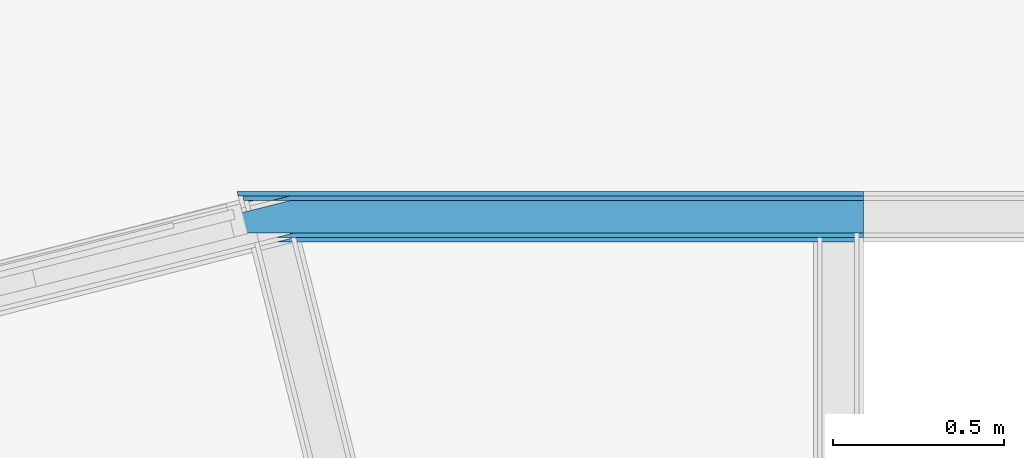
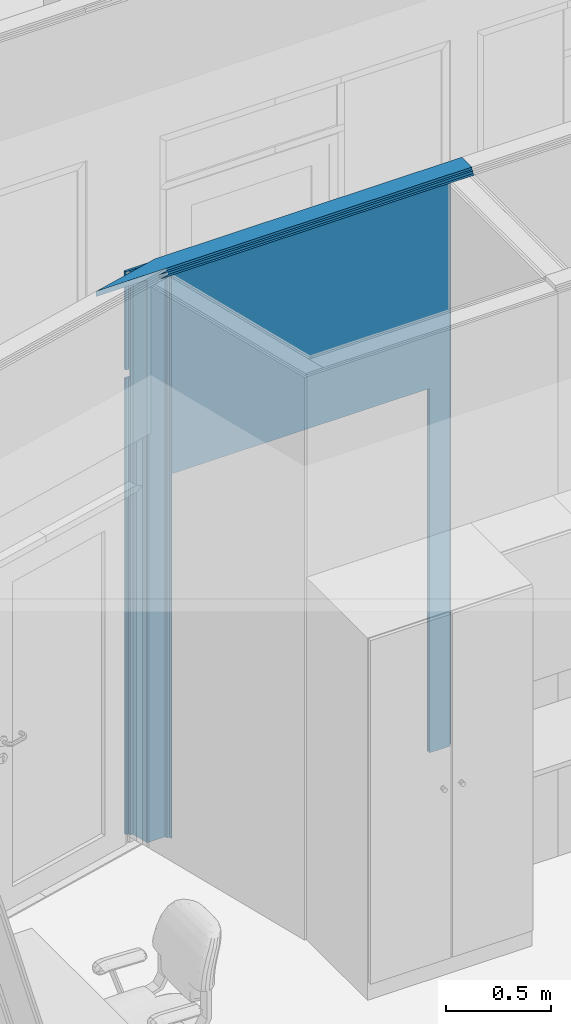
# One storey, part 80 of 153: 5 building element parts, 1 opening, 1 element without a shape of its own.
"""IFC2X3 building model written with IfcOpenShell, lengths in millimetres."""

import ifcopenshell
import ifcopenshell.guid

model = None  # the IFC model being written
_history = None  # IfcOwnerHistory: only IFC2X3 demands one
_inside = {}  # id of a spatial element -> (the spatial element, [elements in it])
_under = {}  # id of a project, library or spatial element -> (it, [spatial elements below it])
_declared = {}  # id of a project -> (the project, [libraries it declares])
_typed = {}  # id of a type object -> (the type object, [elements of that type])
_made_of = {}  # id of a material, layer set ... -> (it, [elements and type objects made of it])


def new_model(schema):
    """Start an empty IFC model of exactly this schema.

    Asked for "IFC4X3", IfcOpenShell would pick the latest addendum, in which some entities
    have other attributes; the version numbers below select the first issue.
    IFC2X3 requires an IfcOwnerHistory on every rooted entity: one is made here for all.
    """
    global model, _history
    if schema == "IFC4X3":
        model = ifcopenshell.file(schema_version=(4, 3, 0, 0))
    else:
        model = ifcopenshell.file(schema=schema)
    _inside.clear()
    _under.clear()
    _declared.clear()
    _typed.clear()
    _made_of.clear()
    _history = None
    if model.schema == "IFC2X3":
        org = make("IfcOrganization", Name="unknown")
        user = make(
            "IfcPersonAndOrganization",
            ThePerson=make("IfcPerson", FamilyName="unknown"),
            TheOrganization=org,
        )
        app = make(
            "IfcApplication",
            ApplicationDeveloper=org,
            Version="unknown",
            ApplicationFullName="unknown",
            ApplicationIdentifier="unknown",
        )
        _history = make(
            "IfcOwnerHistory",
            OwningUser=user,
            OwningApplication=app,
            ChangeAction="ADDED",
            CreationDate=0,
        )
    return model


def make(cls, **values):
    """One entity of the class cls with the attributes given. An attribute that is None is left unset."""
    return model.create_entity(
        cls, **{name: value for name, value in values.items() if value is not None}
    )


def entity(cls, *values):
    """Any entity or typed value of the class cls, its attributes in the order of the schema. None: left unset."""
    e = model.create_entity(cls)
    for i, value in enumerate(values):
        if value is not None:
            e[i] = value
    return e


def rooted(cls, **values):
    """An entity with a GlobalId (a new one), such as an element, a storey or a relation."""
    return make(cls, GlobalId=ifcopenshell.guid.new(), OwnerHistory=_history, **values)


def si_unit(unit_type, name, prefix=None):
    """IfcSIUnit, for example si_unit("LENGTHUNIT", "METRE", prefix="MILLI")."""
    return make("IfcSIUnit", UnitType=unit_type, Prefix=prefix, Name=name)


def converted_unit(unit_type, name, factor, base, dimensions=None, offset=None):
    """IfcConversionBasedUnit, such as the inch: factor (a typed value) times the base unit."""
    return make(
        "IfcConversionBasedUnit"
        if offset is None
        else "IfcConversionBasedUnitWithOffset",
        ConversionOffset=offset,
        Dimensions=None
        if dimensions is None
        else entity("IfcDimensionalExponents", *dimensions),
        UnitType=unit_type,
        Name=name,
        ConversionFactor=make(
            "IfcMeasureWithUnit", ValueComponent=factor, UnitComponent=base
        ),
    )


def derived_unit(unit_type, elements):
    """IfcDerivedUnit: a product of units, each with its exponent."""
    return make(
        "IfcDerivedUnit",
        Elements=[
            make("IfcDerivedUnitElement", Unit=unit, Exponent=power)
            for unit, power in elements
        ],
        UnitType=unit_type,
    )


def money_unit(currency):
    """IfcMonetaryUnit."""
    return make("IfcMonetaryUnit", Currency=currency)


def assignment(units):
    """IfcUnitAssignment: the units of a project."""
    return None if units is None else make("IfcUnitAssignment", Units=units)


def point(xyz):
    """IfcCartesianPoint."""
    return None if xyz is None else make("IfcCartesianPoint", Coordinates=xyz)


def direction(xyz):
    """IfcDirection."""
    return None if xyz is None else make("IfcDirection", DirectionRatios=xyz)


def frame(location, z_axis=None, x_axis=None):
    """IfcAxis2Placement3D, a coordinate frame: its origin and axes. An axis left out is left unset."""
    return make(
        "IfcAxis2Placement3D",
        Location=point(location),
        Axis=direction(z_axis),
        RefDirection=direction(x_axis),
    )


def origin_with_axes():
    """The frame at (0, 0, 0) with the z axis (0, 0, 1) and the x axis (1, 0, 0) written out."""
    return frame((0.0, 0.0, 0.0), z_axis=(0.0, 0.0, 1.0), x_axis=(1.0, 0.0, 0.0))


def place(relative_to, where):
    """IfcLocalPlacement: puts the frame where relative to a parent placement (None: the world)."""
    return make(
        "IfcLocalPlacement", PlacementRelTo=relative_to, RelativePlacement=where
    )


def context(
    kind, dimensions, precision=None, world=None, true_north=None, identifier=None
):
    """IfcGeometricRepresentationContext, for example the 3D "Model" context."""
    return make(
        "IfcGeometricRepresentationContext",
        ContextIdentifier=identifier,
        ContextType=kind,
        CoordinateSpaceDimension=dimensions,
        Precision=precision,
        WorldCoordinateSystem=world,
        TrueNorth=true_north,
    )


def subcontext(parent, identifier, kind, view, scale=None):
    """IfcGeometricRepresentationSubContext, for example "Body" below "Model"."""
    return make(
        "IfcGeometricRepresentationSubContext",
        ContextIdentifier=identifier,
        ContextType=kind,
        ParentContext=parent,
        TargetScale=scale,
        TargetView=view,
    )


def project(units=None, contexts=None):
    """IfcProject with its units and contexts."""
    return rooted(
        "IfcProject",
        Name="project",
        RepresentationContexts=contexts,
        UnitsInContext=assignment(units),
    )


def spatial(cls, under=None, at=None, **own):
    """A site, building, storey or space (cls), placed at a placement, below another one or the project."""
    s = rooted(cls, ObjectPlacement=at, **own)
    if under is not None:
        _under.setdefault(under.id(), (under, []))[1].append(s)
    return s


def faces_of(points, faces, orient=None, outer=None):
    """IfcFace entities. A face is a list of loops; a loop is a list of indices into points, from 0.

    orient and outer hold one flag for each loop. By default every Orientation is true, the
    first loop of a face is its IfcFaceOuterBound and the others are IfcFaceBound.
    """
    made = []
    for i, loops in enumerate(faces):
        bounds = []
        for j, loop in enumerate(loops):
            is_outer = j == 0 if outer is None else outer[i][j]
            bounds.append(
                make(
                    "IfcFaceOuterBound" if is_outer else "IfcFaceBound",
                    Bound=make("IfcPolyLoop", Polygon=[points[k] for k in loop]),
                    Orientation=True if orient is None else orient[i][j],
                )
            )
        made.append(make("IfcFace", Bounds=bounds))
    return made


def faceted_brep(points, faces, orient=None, outer=None, voids=None):
    """IfcFacetedBrep: a solid bounded by flat faces; with voids (closed shells), ...WithVoids."""
    shared = [point(p) for p in points]
    hull = make("IfcClosedShell", CfsFaces=faces_of(shared, faces, orient, outer))
    if voids is None:
        return make("IfcFacetedBrep", Outer=hull)
    return make(
        "IfcFacetedBrepWithVoids",
        Outer=hull,
        Voids=[
            make(cls, CfsFaces=faces_of(shared, fs, o, b)) for cls, fs, o, b in voids
        ],
    )


def shape(context_of_items, identifier, shape_type, items):
    """IfcShapeRepresentation: the items that make up one representation, for example the "Body"."""
    return make(
        "IfcShapeRepresentation",
        ContextOfItems=context_of_items,
        RepresentationIdentifier=identifier,
        RepresentationType=shape_type,
        Items=items,
    )


def material(Name=None, Category=None):
    """IfcMaterial."""
    return make("IfcMaterial", Name=Name, Category=Category)


def made_of(thing, what):
    """Note that an element or type object is made of a material, layer set ...; save() writes the relation."""
    if what is not None:
        _made_of.setdefault(what.id(), (what, []))[1].append(thing)
    return thing


def type_object(cls, material=None, **own):
    """A type object (cls), such as IfcWallType, which elements share."""
    return made_of(rooted(cls, **own), material)


def element(
    cls,
    number,
    at=None,
    inside=None,
    cuts=None,
    type_object=None,
    material=None,
    context=None,
    identifier="Body",
    shape_type=None,
    held_by="IfcProductDefinitionShape",
    body=None,
    shapes=None,
    **own,
):
    """One element of the class cls, such as IfcWall. Its Tag is "e" and its number.

    at: its placement. inside: the storey or other place that contains it. cuts: it is an
    opening in that element (IfcRelVoidsElement). A single representation is given by context,
    identifier, shape_type and body (its items); several are given by shapes. held_by: the class
    of the entity that holds the representations. save() writes the other relations.
    """
    e = rooted(cls, Tag="e%d" % number, ObjectPlacement=at, **own)
    if body is not None:
        shapes = [shape(context, identifier, shape_type, body)]
    if shapes is not None:
        e.Representation = make(held_by, Representations=shapes)
    if inside is not None:
        _inside.setdefault(inside.id(), (inside, []))[1].append(e)
    if cuts is not None:
        rooted(
            "IfcRelVoidsElement", RelatingBuildingElement=cuts, RelatedOpeningElement=e
        )
    if type_object is not None:
        _typed.setdefault(type_object.id(), (type_object, []))[1].append(e)
    return made_of(e, material)


def aggregate(whole, parts):
    """IfcRelAggregates: a whole, such as a stair, and the parts it consists of."""
    return rooted("IfcRelAggregates", RelatingObject=whole, RelatedObjects=parts)


def save(model, path):
    """Write the relations noted so far, then the file.

    IfcRelAggregates (storeys below a building ...), IfcRelContainedInSpatialStructure (elements
    in a storey), IfcRelDefinesByType, IfcRelAssociatesMaterial and IfcRelDeclares: one each for
    every whole, place, type object, material and project.
    """
    for whole, parts in _under.values():
        aggregate(whole, parts)
    for where, things in _inside.values():
        rooted(
            "IfcRelContainedInSpatialStructure",
            RelatedElements=things,
            RelatingStructure=where,
        )
    for kind, things in _typed.values():
        rooted("IfcRelDefinesByType", RelatedObjects=things, RelatingType=kind)
    for what, things in _made_of.values():
        rooted("IfcRelAssociatesMaterial", RelatedObjects=things, RelatingMaterial=what)
    for by, libraries in _declared.values():
        rooted("IfcRelDeclares", RelatingContext=by, RelatedDefinitions=libraries)
    model.write(path)


model = new_model("IFC2X3")

# Units and contexts
model_context = context("Model", 3, precision=0.01, world=origin_with_axes(), true_north=direction((0.0, 1.0)))
body_context = subcontext(model_context, "Body", "Model", "MODEL_VIEW")
ifc_project = project(units=[si_unit("LENGTHUNIT", "METRE", prefix="MILLI"), si_unit("AREAUNIT", "SQUARE_METRE"), si_unit("VOLUMEUNIT", "CUBIC_METRE"), converted_unit("PLANEANGLEUNIT", "DEGREE", entity("IfcPlaneAngleMeasure", 0.0174532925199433), si_unit("PLANEANGLEUNIT", "RADIAN"), dimensions=[0, 0, 0, 0, 0, 0, 0]), money_unit("EUR"), converted_unit("TIMEUNIT", "Year", entity("IfcTimeMeasure", 31557600.0), si_unit("TIMEUNIT", "SECOND"), dimensions=[0, 0, 1, 0, 0, 0, 0]), si_unit("MASSUNIT", "GRAM", prefix="KILO"), si_unit("THERMODYNAMICTEMPERATUREUNIT", "DEGREE_CELSIUS"), si_unit("LUMINOUSINTENSITYUNIT", "LUMEN"), si_unit("ENERGYUNIT", "JOULE", prefix="MEGA"), derived_unit("THERMALCONDUCTANCEUNIT", [(si_unit("POWERUNIT", "WATT"), 1), (si_unit("LENGTHUNIT", "METRE"), -1), (si_unit("THERMODYNAMICTEMPERATUREUNIT", "KELVIN"), -1)]), derived_unit("SPECIFICHEATCAPACITYUNIT", [(si_unit("ENERGYUNIT", "JOULE"), 1), (si_unit("MASSUNIT", "GRAM", prefix="KILO"), -1), (si_unit("THERMODYNAMICTEMPERATUREUNIT", "KELVIN"), -1)]), derived_unit("MASSDENSITYUNIT", [(si_unit("MASSUNIT", "GRAM", prefix="KILO"), 1), (si_unit("VOLUMEUNIT", "CUBIC_METRE"), -1)])], contexts=[model_context])

# Site, building, storey
site_placement = place(None, frame((0.0, 0.0, 8650.0), z_axis=(0.0, 0.0, 1.0), x_axis=(1.0, 0.0, 0.0)))
site = spatial("IfcSite", under=ifc_project, at=site_placement, Name="43301:001:0844", CompositionType="ELEMENT")
building_placement = place(site_placement, origin_with_axes())
building = spatial("IfcBuilding", under=site, at=building_placement, Name="Kuressaare Ametikooli tuulikute mehaanikute õppekorpus", CompositionType="ELEMENT")
storey_placement = place(building_placement, frame((0.0, 0.0, 4100.0), z_axis=(0.0, 0.0, 1.0), x_axis=(1.0, 0.0, 0.0)))
storey = spatial("IfcBuildingStorey", under=building, at=storey_placement, Name="2.korrus", CompositionType="ELEMENT", Elevation=4100.0)

# Wall, opening, building element parts
wall_type = type_object("IfcWallType", Name="SS-2.2 147", PredefinedType="NOTDEFINED")
wall_placement = place(storey_placement, frame((124960.4796407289, 21634.06892395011, 0.0), z_axis=(0.0, 0.0, 1.0), x_axis=(1.0, 0.0, 0.0)))
wall = element("IfcWall", 1, at=wall_placement, inside=storey, type_object=wall_type, Name="Sisesein")
opening_placement = place(wall_placement, frame((731.8446297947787, 0.0, 0.0), z_axis=(0.0, 0.0, 1.0), x_axis=(1.0, 0.0, 0.0)))
element("IfcOpeningElement", 2, at=opening_placement, cuts=wall, Name="PU10+4", context=body_context, shape_type="Brep", body=[
    faceted_brep([(-704.9999999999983, -147.9999999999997, 2110.0), (-704.9999999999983, -147.9999999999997, 0.0), (704.9999999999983, -147.9999999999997, 0.0), (704.9999999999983, -147.9999999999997, 2110.0), (-704.9999999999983, 1.000000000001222, 2110.0), (-704.9999999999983, 1.000000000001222, 0.0), (704.9999999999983, 1.000000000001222, 0.0), (704.9999999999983, 1.000000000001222, 2110.0)], [[[0, 1, 2, 3]], [[4, 5, 1, 0]], [[5, 6, 2, 1]], [[6, 7, 3, 2]], [[7, 4, 0, 3]], [[6, 5, 4, 7]]]),
])
ifc_material_1 = material(Name="Kipsplaat")
building_element_part_1_placement = place(wall_placement, origin_with_axes())
building_element_part_1 = element("IfcBuildingElementPart", 3, at=building_element_part_1_placement, material=ifc_material_1, Name="Kipsplaat", context=body_context, shape_type="Brep", body=[
    faceted_brep([(1436.844629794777, -12.99999999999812, 2110.0), (1436.844629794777, 0.0, 2110.0), (1436.844629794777, 0.0, 3259.999999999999), (1436.844629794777, -12.99999999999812, 3259.999999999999), (26.84462979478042, 0.0, 2110.0), (26.84462979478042, -12.99999999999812, 2110.0), (26.84462979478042, 0.0, 0.0), (-151.5471106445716, 0.0, 0.0), (-151.5471106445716, 0.0, 2640.000017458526), (-49.04929149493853, 0.0, 2640.000017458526), (-49.04929149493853, 0.0, 2690.000017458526), (-151.5471106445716, 0.0, 2690.000017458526), (-151.5471106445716, 0.0, 3259.999999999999), (0.0, 0.0, 3259.999999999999), (0.0, 0.0, 3260.712739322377), (1683.844629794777, 0.0, 3260.712739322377), (1683.844629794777, 0.0, 3259.999999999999), (1683.844629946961, -12.99999999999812, 3259.999999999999), (1683.844629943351, -12.99999999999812, 3260.712739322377), (-51.86644595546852, -12.99999999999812, 3260.712739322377), (-51.86644595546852, -12.99999999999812, 3259.999999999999), (-148.2887420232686, -12.99999999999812, 3259.999999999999), (-148.2887420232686, -12.99999999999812, 2690.000017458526), (-100.5406545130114, -12.99999999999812, 2690.000017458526), (-100.5406545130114, -12.99999999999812, 2640.000017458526), (-148.2887420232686, -12.99999999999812, 2640.000017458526), (-148.2887420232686, -13.00000000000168, 0.0), (26.84462979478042, -13.00000000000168, 0.0)], [[[0, 1, 2, 3]], [[4, 1, 0, 5]], [[4, 6, 7, 8, 9, 10, 11, 12, 13, 14, 15, 16, 2, 1]], [[2, 16, 17, 3]], [[5, 0, 3, 17, 18, 19, 20, 21, 22, 23, 24, 25, 26, 27]], [[6, 4, 5, 27]], [[6, 27, 26, 7]], [[8, 7, 26, 25]], [[8, 25, 24, 9]], [[9, 24, 23, 10]], [[10, 23, 22, 11]], [[22, 21, 12, 11]], [[13, 12, 21, 20]], [[14, 13, 20, 19]], [[15, 14, 19, 18]], [[18, 17, 16, 15]]]),
])
ifc_material_2 = material(Name="Soojustus - Mineraalvill pehme")
building_element_part_2_placement = place(wall_placement, origin_with_axes())
building_element_part_2 = element("IfcBuildingElementPart", 4, at=building_element_part_2_placement, material=ifc_material_2, Name="Soojustus - Mineraalvill pehme", context=body_context, shape_type="Brep", body=[
    faceted_brep([(1436.844629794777, -120.9999999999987, 3259.999999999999), (1436.844629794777, -120.9999999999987, 2110.0), (1436.844629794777, -25.9999999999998, 2110.0), (1436.844629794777, -25.9999999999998, 3259.999999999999), (26.84462979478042, -121.0000000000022, 0.0), (26.84462979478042, -120.9999999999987, 2110.0), (1657.844629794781, -120.9999999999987, 3259.999999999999), (1683.844629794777, -120.9999999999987, 3259.999999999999), (1683.844629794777, -120.9999999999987, 3289.999998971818), (-375.8152870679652, -120.9999999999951, 3289.999999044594), (-375.8152870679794, -120.9999999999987, 3259.999999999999), (-121.2192180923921, -120.9999999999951, 3259.999999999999), (-94.41496723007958, -120.9999999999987, 3259.999999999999), (-94.41496723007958, -121.0000000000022, 0.0), (26.84462979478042, -25.9999999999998, 2110.0), (26.84462979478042, -25.9999999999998, 0.0), (-118.2261225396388, -25.9999999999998, 0.0), (-118.2261225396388, -25.9999999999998, 3259.999999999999), (-103.7328919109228, -25.9999999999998, 3259.999999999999), (3.208741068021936, -25.9999999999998, 3259.999999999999), (3.208741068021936, -25.9999999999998, 3289.999998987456), (1683.844629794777, -25.9999999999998, 3289.999998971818), (1683.844629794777, -25.9999999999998, 3259.999999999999), (1657.844629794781, -25.9999999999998, 3259.999999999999), (-136.2681184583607, -60.95900172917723, 3259.999999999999), (-111.0482380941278, -54.63779658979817, 3259.999999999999), (-117.3694432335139, -29.41791622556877, 3259.999999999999)], [[[0, 1, 2, 3]], [[4, 5, 1, 0, 6, 7, 8, 9, 10, 11, 12, 13]], [[5, 14, 2, 1]], [[2, 14, 15, 16, 17, 18, 19, 20, 21, 22, 23, 3]], [[0, 3, 23, 6]], [[4, 15, 14, 5]], [[7, 6, 23, 22]], [[8, 7, 22, 21]], [[21, 20, 9, 8]], [[24, 10, 9, 20, 19, 25]], [[11, 10, 24]], [[24, 25, 12, 11]], [[12, 25, 26, 17, 16, 13]], [[16, 15, 4, 13]], [[26, 18, 17]], [[18, 26, 25, 19]]]),
])
building_element_part_3_placement = place(wall_placement, origin_with_axes())
building_element_part_3 = element("IfcBuildingElementPart", 5, at=building_element_part_3_placement, material=ifc_material_1, Name="Kipsplaat", context=body_context, shape_type="Brep", body=[
    faceted_brep([(1436.844629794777, -25.9999999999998, 2110.0), (1436.844629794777, -12.99999999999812, 2110.0), (1436.844629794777, -12.99999999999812, 3259.999999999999), (1436.844629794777, -25.9999999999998, 3259.999999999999), (26.84462979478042, -13.00000000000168, 2110.0), (26.84462979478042, -25.9999999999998, 2110.0), (26.84462979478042, -13.00000000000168, 0.0), (-134.8866165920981, -13.00000000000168, 0.0), (-134.8866165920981, -13.00000000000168, 2640.000017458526), (-100.5406545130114, -12.99999999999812, 2640.000017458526), (-100.5406545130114, -12.99999999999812, 2690.000017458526), (-134.8866165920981, -13.00000000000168, 2690.000017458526), (-134.8866165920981, -13.00000000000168, 3259.999999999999), (-51.86644595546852, -13.00000000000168, 3259.999999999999), (1.60437053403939, -12.99999999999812, 3259.999999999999), (1.60437053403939, -12.99999999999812, 3275.712739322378), (1683.844629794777, -12.99999999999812, 3275.712739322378), (1683.844629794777, -13.00000000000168, 3259.999999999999), (1670.844629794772, -12.99999999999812, 3259.999999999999), (1670.844629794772, -25.9999999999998, 3259.999999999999), (1683.844629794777, -25.9999999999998, 3259.999999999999), (1683.844629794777, -25.9999999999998, 3275.712739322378), (-50.26207542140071, -25.9999999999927, 3275.712739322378), (-50.26207542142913, -25.9999999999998, 3259.999999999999), (-103.7328919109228, -25.9999999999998, 3259.999999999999), (-131.6282479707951, -25.9999999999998, 3259.999999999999), (-131.6282479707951, -25.9999999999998, 0.0), (26.84462979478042, -25.9999999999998, 0.0), (-132.842555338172, -21.15524558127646, 2690.000017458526), (-132.842555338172, -21.15524558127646, 2640.000017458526)], [[[0, 1, 2, 3]], [[4, 1, 0, 5]], [[4, 6, 7, 8, 9, 10, 11, 12, 13, 14, 15, 16, 17, 18, 2, 1]], [[2, 18, 19, 3]], [[5, 0, 3, 19, 20, 21, 22, 23, 24, 25, 26, 27]], [[6, 4, 5, 27]], [[6, 27, 26, 7]], [[12, 11, 28, 29, 8, 7, 26, 25]], [[9, 8, 29]], [[9, 29, 28, 10]], [[11, 10, 28]], [[12, 25, 24, 13]], [[14, 13, 24, 23]], [[15, 14, 23, 22]], [[16, 15, 22, 21]], [[21, 20, 17, 16]], [[19, 18, 17, 20]]]),
])
building_element_part_4_placement = place(wall_placement, origin_with_axes())
building_element_part_4 = element("IfcBuildingElementPart", 6, at=building_element_part_4_placement, material=ifc_material_1, Name="Kipsplaat", context=body_context, shape_type="Brep", body=[
    faceted_brep([(26.84462979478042, -134.0000000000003, 2110.0), (26.84462979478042, -134.0000000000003, 0.0), (20.18413574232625, -134.0000000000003, 0.0), (20.18413574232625, -134.0000000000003, 3259.999999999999), (16.53735781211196, -134.0000000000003, 3259.999999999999), (16.53735781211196, -134.0000000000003, 3260.712739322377), (1683.844629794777, -134.0000000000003, 3260.712739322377), (1683.844629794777, -134.0000000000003, 3259.999999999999), (1549.844629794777, -134.0000000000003, 3259.999999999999), (1549.844629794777, -134.0000000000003, 0.0), (1436.844629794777, -134.0000000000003, 0.0), (1436.844629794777, -134.0000000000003, 2110.0), (26.84462979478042, -146.9999999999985, 2110.0), (26.84462979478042, -147.0000000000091, 0.0), (23.44250436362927, -147.0000000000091, 0.0), (23.44250436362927, -146.9999999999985, 3259.999999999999), (-35.32908814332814, -146.9999999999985, 3259.999999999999), (-35.32908814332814, -146.9999999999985, 3260.712739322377), (1683.844629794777, -146.9999999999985, 3260.712739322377), (1683.844629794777, -146.9999999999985, 3259.999999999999), (1549.844629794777, -146.9999999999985, 3259.999999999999), (1549.844629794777, -146.9999999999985, 0.0), (1436.844629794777, -146.9999999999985, 0.0), (1436.844629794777, -146.9999999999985, 2110.0)], [[[0, 1, 2, 3, 4, 5, 6, 7, 8, 9, 10, 11]], [[1, 0, 12, 13]], [[1, 13, 14, 2]], [[14, 15, 3, 2]], [[4, 3, 15, 16]], [[5, 4, 16, 17]], [[6, 5, 17, 18]], [[18, 19, 7, 6]], [[19, 20, 8, 7]], [[9, 8, 20, 21]], [[22, 10, 9, 21]], [[11, 10, 22, 23]], [[0, 11, 23, 12]], [[23, 22, 21, 20, 19, 18, 17, 16, 15, 14, 13, 12]]]),
])
building_element_part_5_placement = place(wall_placement, origin_with_axes())
building_element_part_5 = element("IfcBuildingElementPart", 7, at=building_element_part_5_placement, material=ifc_material_1, Name="Kipsplaat", context=body_context, shape_type="Brep", body=[
    faceted_brep([(26.84462979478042, -120.9999999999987, 2110.0), (26.84462979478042, -120.9999999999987, 0.0), (3.523641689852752, -120.9999999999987, 0.0), (3.523641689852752, -120.9999999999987, 3259.999999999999), (14.93298727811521, -120.9999999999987, 3259.999999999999), (14.93298727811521, -120.9999999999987, 3275.712739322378), (1683.844629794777, -120.9999999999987, 3275.712739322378), (1683.844629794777, -120.9999999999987, 3259.999999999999), (1562.844629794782, -120.9999999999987, 3259.999999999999), (1562.844629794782, -120.9999999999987, 0.0), (1436.844629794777, -120.9999999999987, 0.0), (1436.844629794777, -120.9999999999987, 2110.0), (26.84462979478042, -134.0000000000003, 2110.0), (26.84462979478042, -134.0000000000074, 0.0), (6.782010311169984, -134.0000000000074, 0.0), (6.782010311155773, -134.0000000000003, 3259.999999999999), (4.198035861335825, -123.6906483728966, 3259.999999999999), (-36.93345867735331, -134.0000000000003, 3259.999999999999), (-36.9334586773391, -133.9999999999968, 3275.712739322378), (1683.844629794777, -134.0000000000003, 3275.712739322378), (1683.844629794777, -134.0000000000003, 3259.999999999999), (1562.844629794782, -134.0000000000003, 3259.999999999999), (1562.844629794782, -134.0000000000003, 0.0), (1436.844629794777, -134.0000000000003, 0.0), (1436.844629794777, -134.0000000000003, 2110.0)], [[[0, 1, 2, 3, 4, 5, 6, 7, 8, 9, 10, 11]], [[1, 0, 12, 13]], [[1, 13, 14, 2]], [[15, 16, 3, 2, 14]], [[4, 3, 16]], [[4, 16, 17, 18, 5]], [[6, 5, 18, 19]], [[19, 20, 7, 6]], [[20, 21, 8, 7]], [[9, 8, 21, 22]], [[23, 10, 9, 22]], [[11, 10, 23, 24]], [[0, 11, 24, 12]], [[24, 23, 22, 21, 20, 19, 18, 17, 15, 14, 13, 12]], [[16, 15, 17]]]),
])
aggregate(wall, [building_element_part_1, building_element_part_2, building_element_part_3, building_element_part_4, building_element_part_5])

save(model, "model.ifc")
